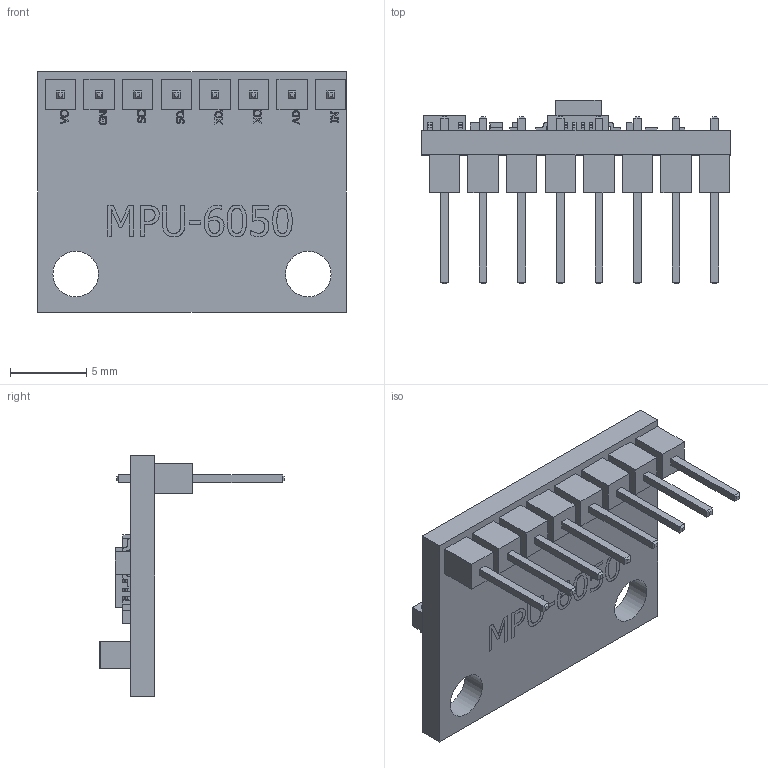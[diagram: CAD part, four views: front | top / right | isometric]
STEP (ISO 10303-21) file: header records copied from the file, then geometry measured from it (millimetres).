
FILE_DESCRIPTION(/* description */ (''),/* implementation_level */ '2;1');
FILE_NAME(/* name */ 'MPU6050_pin.stp',/* time_stamp */ '2025-12-24T18:14:07+07:00',/* author */ ('quang'),/* organization */ (''),/* preprocessor_version */ 'ST-DEVELOPER v20',/* originating_system */ 'Autodesk Inventor 2024',/* authorisation */ '');
FILE_SCHEMA (('AUTOMOTIVE_DESIGN { 1 0 10303 214 3 1 1 }'));
Products named in the file (1): MPU6050
Bounding box: 20.3 x 12.11 x 15.8 mm (x, y, z)
Volume: 619 mm3; surface area: 1169.1 mm2
Topology: 1 solids, 1 shells, 2558 faces, 7143 edges, 4737 vertices
Faces by surface type: plane 1772, bspline 635, cylinder 151
Full cylindrical faces by diameter (mm): 0.1 x8, 0.5 x1, 0.8 x8, 1.2 x8, 3 x2
Entity records: 87631 total; most frequent: CARTESIAN_POINT 23209, ORIENTED_EDGE 14286, DIRECTION 10011, EDGE_CURVE 7143, LINE 5531, VECTOR 5531, VERTEX_POINT 4737, EDGE_LOOP 2770
